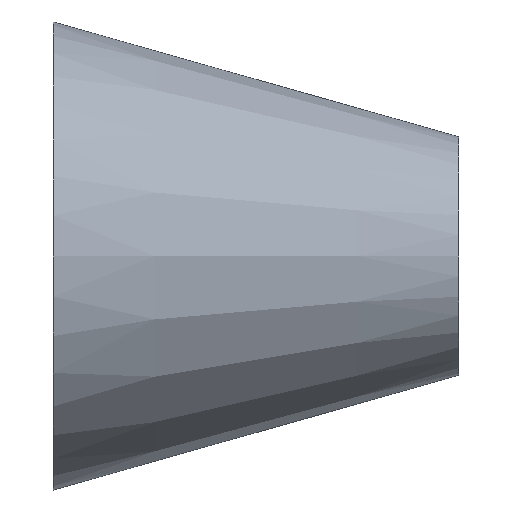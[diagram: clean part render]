
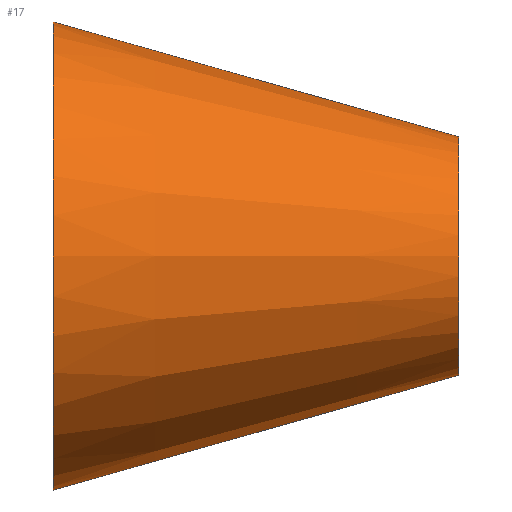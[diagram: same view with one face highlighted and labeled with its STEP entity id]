
A CAD part, front view. The second image highlights one B-rep face of the part: STEP entity #17.
In plain terms, the highlighted conical face has half-angle 15.819 degrees and reference radius 52 mm.
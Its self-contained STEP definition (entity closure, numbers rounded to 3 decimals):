
#17 = ADVANCED_FACE('',(#18),#31,.T.);
#18 = FACE_BOUND('',#19,.T.);
#19 = EDGE_LOOP('',(#20,#54,#74,#101));
#20 = ORIENTED_EDGE('',*,*,#21,.T.);
#21 = EDGE_CURVE('',#22,#22,#24,.T.);
#22 = VERTEX_POINT('',#23);
#23 = CARTESIAN_POINT('',(0.,52.,0.));
#24 = SURFACE_CURVE('',#25,(#30,#42),.PCURVE_S1.);
#25 = CIRCLE('',#26,52.);
#26 = AXIS2_PLACEMENT_3D('',#27,#28,#29);
#27 = CARTESIAN_POINT('',(0.,0.,0.));
#28 = DIRECTION('',(1.,0.,0.));
#29 = DIRECTION('',(0.,1.,0.));
#30 = PCURVE('',#31,#36);
#31 = CONICAL_SURFACE('',#32,52.,0.276);
#32 = AXIS2_PLACEMENT_3D('',#33,#34,#35);
#33 = CARTESIAN_POINT('',(0.,0.,0.));
#34 = DIRECTION('',(-1.,-0.,-0.));
#35 = DIRECTION('',(0.,1.,0.));
#36 = DEFINITIONAL_REPRESENTATION('',(#37),#41);
#37 = LINE('',#38,#39);
#38 = CARTESIAN_POINT('',(-0.,-0.));
#39 = VECTOR('',#40,1.);
#40 = DIRECTION('',(-1.,-0.));
#41 = ( GEOMETRIC_REPRESENTATION_CONTEXT(2) 
PARAMETRIC_REPRESENTATION_CONTEXT() REPRESENTATION_CONTEXT('2D SPACE',''
  ) );
#42 = PCURVE('',#43,#48);
#43 = PLANE('',#44);
#44 = AXIS2_PLACEMENT_3D('',#45,#46,#47);
#45 = CARTESIAN_POINT('',(0.,0.,0.));
#46 = DIRECTION('',(1.,0.,0.));
#47 = DIRECTION('',(0.,1.,0.));
#48 = DEFINITIONAL_REPRESENTATION('',(#49),#53);
#49 = CIRCLE('',#50,52.);
#50 = AXIS2_PLACEMENT_2D('',#51,#52);
#51 = CARTESIAN_POINT('',(0.,0.));
#52 = DIRECTION('',(1.,0.));
#53 = ( GEOMETRIC_REPRESENTATION_CONTEXT(2) 
PARAMETRIC_REPRESENTATION_CONTEXT() REPRESENTATION_CONTEXT('2D SPACE',''
  ) );
#54 = ORIENTED_EDGE('',*,*,#55,.T.);
#55 = EDGE_CURVE('',#22,#56,#58,.T.);
#56 = VERTEX_POINT('',#57);
#57 = CARTESIAN_POINT('',(90.,26.5,0.));
#58 = SEAM_CURVE('',#59,(#62,#68),.PCURVE_S1.);
#59 = B_SPLINE_CURVE_WITH_KNOTS('',1,(#60,#61),.UNSPECIFIED.,.F.,.F.,(2,
    2),(0.,1.),.PIECEWISE_BEZIER_KNOTS.);
#60 = CARTESIAN_POINT('',(0.,52.,0.));
#61 = CARTESIAN_POINT('',(90.,26.5,0.));
#62 = PCURVE('',#31,#63);
#63 = DEFINITIONAL_REPRESENTATION('',(#64),#67);
#64 = B_SPLINE_CURVE_WITH_KNOTS('',1,(#65,#66),.UNSPECIFIED.,.F.,.F.,(2,
    2),(0.,1.),.PIECEWISE_BEZIER_KNOTS.);
#65 = CARTESIAN_POINT('',(-6.283,0.));
#66 = CARTESIAN_POINT('',(-6.283,-90.));
#67 = ( GEOMETRIC_REPRESENTATION_CONTEXT(2) 
PARAMETRIC_REPRESENTATION_CONTEXT() REPRESENTATION_CONTEXT('2D SPACE',''
  ) );
#68 = PCURVE('',#31,#69);
#69 = DEFINITIONAL_REPRESENTATION('',(#70),#73);
#70 = B_SPLINE_CURVE_WITH_KNOTS('',1,(#71,#72),.UNSPECIFIED.,.F.,.F.,(2,
    2),(0.,1.),.PIECEWISE_BEZIER_KNOTS.);
#71 = CARTESIAN_POINT('',(0.,0.));
#72 = CARTESIAN_POINT('',(0.,-90.));
#73 = ( GEOMETRIC_REPRESENTATION_CONTEXT(2) 
PARAMETRIC_REPRESENTATION_CONTEXT() REPRESENTATION_CONTEXT('2D SPACE',''
  ) );
#74 = ORIENTED_EDGE('',*,*,#75,.F.);
#75 = EDGE_CURVE('',#56,#56,#76,.T.);
#76 = SURFACE_CURVE('',#77,(#82,#89),.PCURVE_S1.);
#77 = CIRCLE('',#78,26.5);
#78 = AXIS2_PLACEMENT_3D('',#79,#80,#81);
#79 = CARTESIAN_POINT('',(90.,0.,0.));
#80 = DIRECTION('',(1.,0.,0.));
#81 = DIRECTION('',(0.,1.,0.));
#82 = PCURVE('',#31,#83);
#83 = DEFINITIONAL_REPRESENTATION('',(#84),#88);
#84 = LINE('',#85,#86);
#85 = CARTESIAN_POINT('',(-0.,-90.));
#86 = VECTOR('',#87,1.);
#87 = DIRECTION('',(-1.,-0.));
#88 = ( GEOMETRIC_REPRESENTATION_CONTEXT(2) 
PARAMETRIC_REPRESENTATION_CONTEXT() REPRESENTATION_CONTEXT('2D SPACE',''
  ) );
#89 = PCURVE('',#90,#95);
#90 = PLANE('',#91);
#91 = AXIS2_PLACEMENT_3D('',#92,#93,#94);
#92 = CARTESIAN_POINT('',(90.,0.,0.));
#93 = DIRECTION('',(1.,0.,0.));
#94 = DIRECTION('',(0.,1.,0.));
#95 = DEFINITIONAL_REPRESENTATION('',(#96),#100);
#96 = CIRCLE('',#97,26.5);
#97 = AXIS2_PLACEMENT_2D('',#98,#99);
#98 = CARTESIAN_POINT('',(0.,0.));
#99 = DIRECTION('',(1.,0.));
#100 = ( GEOMETRIC_REPRESENTATION_CONTEXT(2) 
PARAMETRIC_REPRESENTATION_CONTEXT() REPRESENTATION_CONTEXT('2D SPACE',''
  ) );
#101 = ORIENTED_EDGE('',*,*,#55,.F.);
